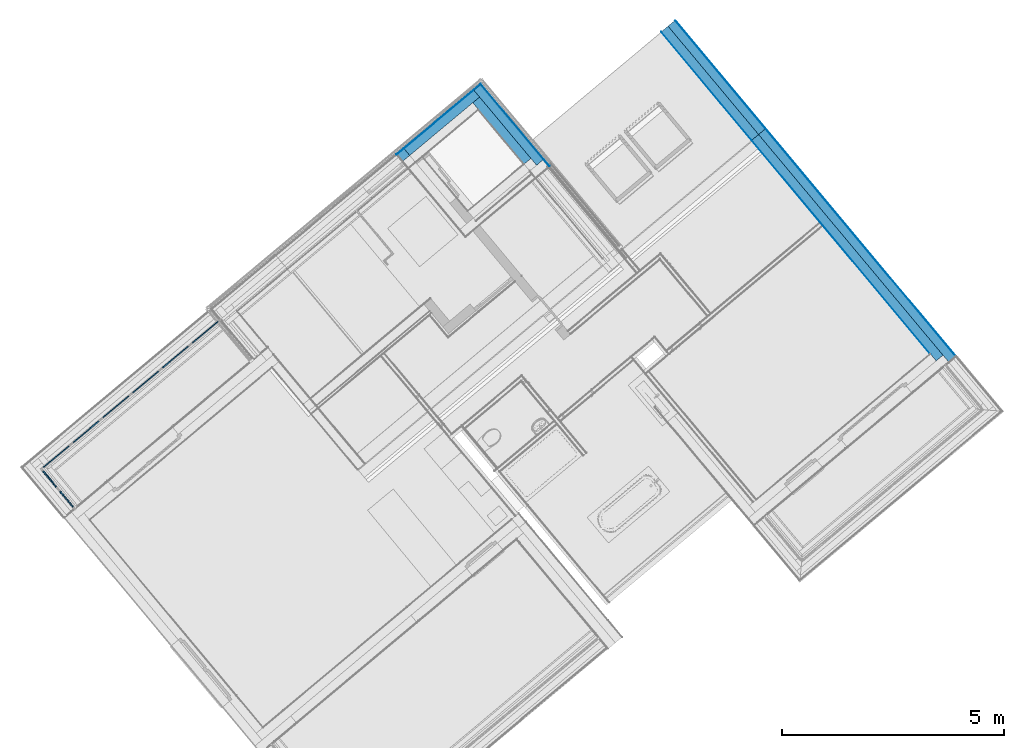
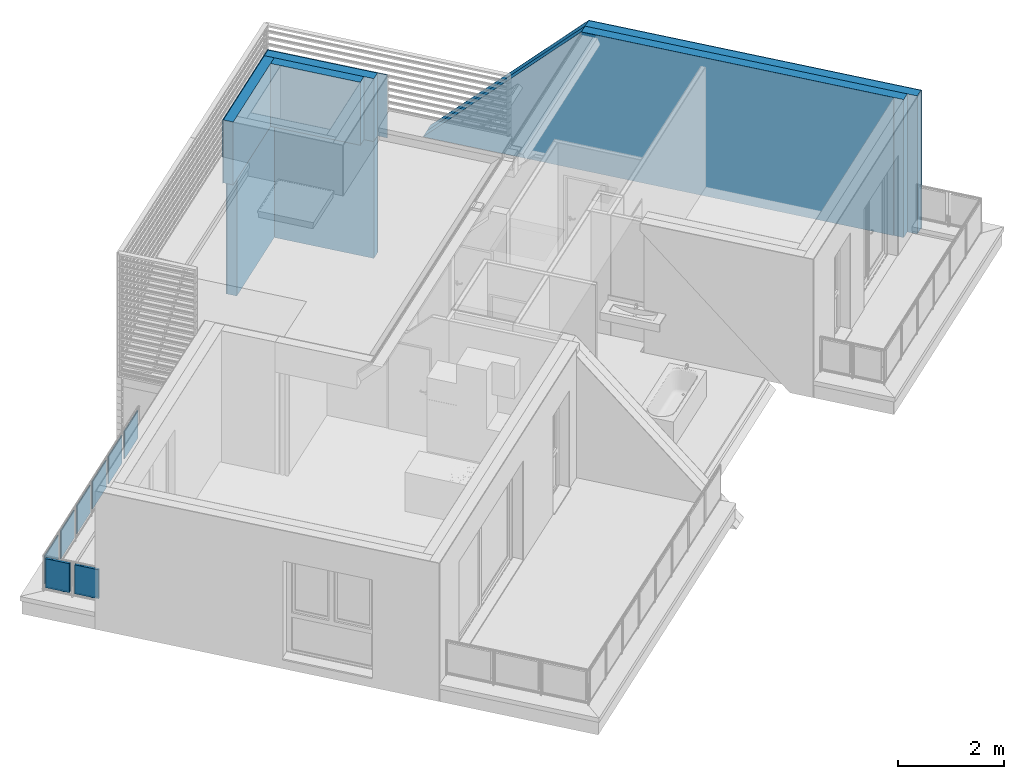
# One storey, part 39 of 50: 23 building element parts, 6 elements without a shape of their own.
"""IFC4 building model written with IfcOpenShell, lengths in metres."""

from ifc_helpers import new_model, entity, si_unit, converted_unit, derived_unit, direction, frame, origin_with_axes, place, context, subcontext, project, spatial, polygons, material, type_object, element, aggregate, save


model = new_model("IFC4")

# Units and contexts
model_context = context("Model", 3, precision=1e-05, world=origin_with_axes(), true_north=direction((0.0, 1.0)))
body_context = subcontext(model_context, "Body", "Model", "MODEL_VIEW")
ifc_project = project(units=[si_unit("LENGTHUNIT", "METRE"), si_unit("AREAUNIT", "SQUARE_METRE"), si_unit("VOLUMEUNIT", "CUBIC_METRE"), converted_unit("PLANEANGLEUNIT", "DEGREE", entity("IfcPlaneAngleMeasure", 0.0174532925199), si_unit("PLANEANGLEUNIT", "RADIAN"), dimensions=[0, 0, 0, 0, 0, 0, 0]), converted_unit("TIMEUNIT", "Year", entity("IfcTimeMeasure", 31556926.0), si_unit("TIMEUNIT", "SECOND"), dimensions=[0, 0, 1, 0, 0, 0, 0]), si_unit("MASSUNIT", "GRAM", prefix="KILO"), si_unit("THERMODYNAMICTEMPERATUREUNIT", "DEGREE_CELSIUS"), si_unit("LUMINOUSINTENSITYUNIT", "LUMEN"), si_unit("ENERGYUNIT", "JOULE", prefix="MEGA"), derived_unit("THERMALCONDUCTANCEUNIT", [(si_unit("POWERUNIT", "WATT"), 1), (si_unit("LENGTHUNIT", "METRE"), -1), (si_unit("THERMODYNAMICTEMPERATUREUNIT", "KELVIN"), -1)]), derived_unit("SPECIFICHEATCAPACITYUNIT", [(si_unit("ENERGYUNIT", "JOULE"), 1), (si_unit("MASSUNIT", "GRAM", prefix="KILO"), -1), (si_unit("THERMODYNAMICTEMPERATUREUNIT", "KELVIN"), -1)]), derived_unit("MASSDENSITYUNIT", [(si_unit("MASSUNIT", "GRAM", prefix="KILO"), 1), (si_unit("VOLUMEUNIT", "CUBIC_METRE"), -1)])], contexts=[model_context])

# Site, building, storey
site_placement = place(None, frame((-0.00153261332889, -0.00661245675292, 0.0), z_axis=(0.0, 0.0, 1.0), x_axis=(1.0, 0.0, 0.0)))
site = spatial("IfcSite", under=ifc_project, at=site_placement, Name="Gelände", CompositionType="ELEMENT")
building_placement = place(site_placement, origin_with_axes())
building = spatial("IfcBuilding", under=site, at=building_placement, Name="Gebäude", CompositionType="ELEMENT")
storey_placement = place(building_placement, frame((0.0, 0.0, 8.66), z_axis=(0.0, 0.0, 1.0), x_axis=(1.0, 0.0, 0.0)))
storey = spatial("IfcBuildingStorey", under=building, at=storey_placement, Name="DG2", CompositionType="ELEMENT", Elevation=8.66)

# Wall, building element parts
wall_type = type_object("IfcWallType", Name="AW EG 420", PredefinedType="NOTDEFINED")
wall_1_placement = place(storey_placement, frame((6.03523969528, 29.0898827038, 0.0), z_axis=(0.0, 0.0, 1.0), x_axis=(0.641209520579, -0.767365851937, 0.0)))
wall_1 = element("IfcWall", 1, at=wall_1_placement, inside=storey, type_object=wall_type, Name="Wand-002", PredefinedType="NOTDEFINED")
ifc_material_1 = material(Name="Zementputz")
building_element_part_1_placement = place(wall_1_placement, origin_with_axes())
building_element_part_1 = element("IfcBuildingElementPart", 2, at=building_element_part_1_placement, material=ifc_material_1, Name="Zementputz", PredefinedType="NOTDEFINED", context=body_context, shape_type="Tessellation", body=[
    polygons([(7.7306872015e-09, 0.0, 5.8130140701e-09), (3.18000000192, 0.0, 3.18), (9.87091338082, 0.0, 3.18), (9.87091338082, 0.0, 0.0), (3.18000000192, -0.015, 3.18), (7.63572316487e-09, -0.015, 5.71815306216e-09), (9.87092314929, -0.015, 3.18), (9.87092314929, -0.015, 0.0)], [[[1, 2, 3, 4]], [[5, 2, 1, 6]], [[2, 5, 7, 3]], [[8, 4, 3, 7]], [[6, 1, 4, 8]], [[5, 6, 8, 7]]], closed=True),
])
ifc_material_2 = material(Name="EPS 1")
building_element_part_2_placement = place(wall_1_placement, origin_with_axes())
building_element_part_2 = element("IfcBuildingElementPart", 3, at=building_element_part_2_placement, material=ifc_material_2, Name="EPS 1", PredefinedType="NOTDEFINED", context=body_context, shape_type="Tessellation", body=[
    polygons([(7.63572316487e-09, -0.015, 5.71815306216e-09), (3.18000000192, -0.015, 3.18), (9.85592314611, -0.015, 3.18), (9.85592314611, -0.015, 0.0), (3.18000000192, -0.215, 3.18), (6.36953245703e-09, -0.215, 4.45335146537e-09), (9.85605339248, -0.215, 3.18), (9.85605339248, -0.215, 0.0)], [[[1, 2, 3, 4]], [[5, 2, 1, 6]], [[2, 5, 7, 3]], [[8, 4, 3, 7]], [[6, 1, 4, 8]], [[5, 6, 8, 7]]], closed=True),
])
ifc_material_3 = material(Name="Stahlbeton Wand")
building_element_part_3_placement = place(wall_1_placement, origin_with_axes())
building_element_part_3 = element("IfcBuildingElementPart", 4, at=building_element_part_3_placement, material=ifc_material_3, Name="Stahlbeton Wand", PredefinedType="NOTDEFINED", context=body_context, shape_type="Tessellation", body=[
    polygons([(6.36953245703e-09, -0.215, 4.45334791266e-09), (3.18000000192, -0.215, 3.18), (9.65605335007, -0.215, 3.18), (9.65605335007, -0.215, 0.0), (3.18000000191, -0.415, 3.18), (5.10334174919e-09, -0.415, 3.18854631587e-09), (9.65618359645, -0.415, 3.18), (9.65618359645, -0.415, 0.0)], [[[1, 2, 3, 4]], [[5, 2, 1, 6]], [[2, 5, 7, 3]], [[8, 4, 3, 7]], [[6, 1, 4, 8]], [[5, 6, 8, 7]]], closed=True),
])
building_element_part_4_placement = place(wall_1_placement, origin_with_axes())
building_element_part_4 = element("IfcBuildingElementPart", 5, at=building_element_part_4_placement, material=ifc_material_1, Name="Zementputz", PredefinedType="NOTDEFINED", context=body_context, shape_type="Tessellation", body=[
    polygons([(5.10334174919e-09, -0.415, 3.18854631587e-09), (3.18000000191, -0.415, 3.18), (9.45618355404, -0.415, 3.18), (9.45618355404, -0.415, 0.0), (3.18000000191, -0.42, 3.18), (5.07168707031e-09, -0.42, 3.15692716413e-09), (9.4561868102, -0.42, 3.18), (9.4561868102, -0.42, 0.0)], [[[1, 2, 3, 4]], [[5, 2, 1, 6]], [[2, 5, 7, 3]], [[8, 4, 3, 7]], [[6, 1, 4, 8]], [[5, 6, 8, 7]]], closed=True),
])
aggregate(wall_1, [building_element_part_1, building_element_part_2, building_element_part_3, building_element_part_4])

wall_2_placement = place(storey_placement, frame((-0.0828746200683, 26.2046404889, 0.0), z_axis=(0.0, 0.0, 1.0), x_axis=(0.767365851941, 0.641209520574, 0.0)))
wall_2 = element("IfcWall", 6, at=wall_2_placement, inside=storey, type_object=wall_type, Name="Wand-002", PredefinedType="NOTDEFINED")
building_element_part_5_placement = place(wall_2_placement, origin_with_axes())
building_element_part_5 = element("IfcBuildingElementPart", 7, at=building_element_part_5_placement, material=ifc_material_1, Name="Zementputz", PredefinedType="NOTDEFINED", context=body_context, shape_type="Tessellation", body=[
    polygons([(2.24974241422, 0.0, 2.69), (0.0, 0.0, 2.69), (0.0, -0.015, 2.69), (2.24974241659, -0.015, 2.69), (2.24974241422, 0.0, 0.0), (0.0, 0.0, 0.0), (0.0, -0.015, 0.0), (2.24974241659, -0.015, 0.0)], [[[1, 2, 3, 4]], [[5, 6, 2, 1]], [[3, 2, 6, 7]], [[4, 3, 7, 8]], [[4, 8, 5, 1]], [[8, 7, 6, 5]]], closed=True),
])
building_element_part_6_placement = place(wall_2_placement, origin_with_axes())
building_element_part_6 = element("IfcBuildingElementPart", 8, at=building_element_part_6_placement, material=ifc_material_2, Name="EPS 1", PredefinedType="NOTDEFINED", context=body_context, shape_type="Tessellation", body=[
    polygons([(2.04974241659, -0.015, 2.69), (0.0, -0.015, 2.69), (0.0, -0.215, 2.69), (2.04974244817, -0.215, 2.69), (2.04974241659, -0.015, 0.0), (0.0, -0.015, 0.0), (0.0, -0.215, 0.0), (2.04974244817, -0.215, 0.0)], [[[1, 2, 3, 4]], [[5, 6, 2, 1]], [[3, 2, 6, 7]], [[4, 3, 7, 8]], [[4, 8, 5, 1]], [[8, 7, 6, 5]]], closed=True),
])
aggregate(wall_2, [building_element_part_5, building_element_part_6])

wall_3_placement = place(storey_placement, frame((1.60265649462, 27.072256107, 2.69), z_axis=(0.0, 0.0, 1.0), x_axis=(-0.767365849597, -0.641209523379, 0.0)))
wall_3 = element("IfcWall", 9, at=wall_3_placement, inside=storey, type_object=wall_type, Name="Wand-002", PredefinedType="NOTDEFINED")
building_element_part_7_placement = place(wall_3_placement, origin_with_axes())
building_element_part_7 = element("IfcBuildingElementPart", 10, at=building_element_part_7_placement, material=ifc_material_2, Name="EPS 1", PredefinedType="NOTDEFINED", context=body_context, shape_type="Tessellation", body=[
    polygons([(2.04954404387, -0.4, 0.0), (-0.200000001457, -0.4, 0.0), (-0.200000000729, -0.2, 0.0), (2.04955660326, -0.2, 0.0), (2.04954404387, -0.4, 1.45), (-0.200000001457, -0.4, 1.45), (-0.200000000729, -0.2, 1.45), (2.04955660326, -0.2, 1.45)], [[[1, 2, 3, 4]], [[5, 6, 2, 1]], [[3, 2, 6, 7]], [[4, 3, 7, 8]], [[4, 8, 5, 1]], [[8, 7, 6, 5]]], closed=True),
])
building_element_part_8_placement = place(wall_3_placement, origin_with_axes())
building_element_part_8 = element("IfcBuildingElementPart", 11, at=building_element_part_8_placement, material=ifc_material_1, Name="Zementputz", PredefinedType="NOTDEFINED", context=body_context, shape_type="Tessellation", body=[
    polygons([(2.06454310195, -0.415, 0.0), (-0.400000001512, -0.415, 0.0), (-0.400000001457, -0.4, 0.0), (2.0645440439, -0.4, 0.0), (2.06454310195, -0.415, 1.45), (-0.400000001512, -0.415, 1.45), (-0.400000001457, -0.4, 1.45), (2.0645440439, -0.4, 1.45)], [[[1, 2, 3, 4]], [[5, 6, 2, 1]], [[3, 2, 6, 7]], [[4, 3, 7, 8]], [[4, 8, 5, 1]], [[8, 7, 6, 5]]], closed=True),
])
aggregate(wall_3, [building_element_part_7, building_element_part_8])

# Space
space_1_placement = place(storey_placement, frame((2.62853065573, 25.842931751, 0.00145373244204), z_axis=(0.0, 0.0, 1.0), x_axis=(-0.641209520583, 0.767365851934, 0.0)))
space_1 = spatial("IfcSpace", under=storey, at=space_1_placement, CompositionType="ELEMENT", PredefinedType="NOTDEFINED")

# Wall, building element parts
wall_4_placement = place(space_1_placement, frame((2.01614181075, -0.416033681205, -0.00145373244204), z_axis=(0.0, 0.0, 1.0), x_axis=(-1.0, -1.57918665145e-07, 0.0)))
wall_4 = element("IfcWall", 12, at=wall_4_placement, inside=space_1, type_object=wall_type, Name="Wand-002", PredefinedType="NOTDEFINED")
building_element_part_9_placement = place(wall_4_placement, origin_with_axes())
building_element_part_9 = element("IfcBuildingElementPart", 13, at=building_element_part_9_placement, material=ifc_material_1, Name="Zementputz", PredefinedType="NOTDEFINED", context=body_context, shape_type="Tessellation", body=[
    polygons([(2.21626913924, -0.0150000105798, 2.69), (2.21627240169, 3.87430532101e-09, 2.69), (0.0, 1.67265312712e-10, 2.69), (-2.36895658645e-09, -0.0150000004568, 2.69), (2.21626913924, -0.0150000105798, 0.0), (2.21627240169, 3.87430532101e-09, 0.0), (0.0, 1.67265312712e-10, 0.0), (-2.36895658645e-09, -0.0150000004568, 0.0)], [[[1, 2, 3, 4]], [[2, 1, 5, 6]], [[2, 6, 7, 3]], [[3, 7, 8, 4]], [[5, 1, 4, 8]], [[6, 5, 8, 7]]], closed=True),
])
building_element_part_10_placement = place(wall_4_placement, origin_with_axes())
building_element_part_10 = element("IfcBuildingElementPart", 14, at=building_element_part_10_placement, material=ifc_material_2, Name="EPS 1", PredefinedType="NOTDEFINED", context=body_context, shape_type="Tessellation", body=[
    polygons([(0.014999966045, -0.215000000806, 2.69), (2.2162256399, -0.215000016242, 2.69), (2.21626913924, -0.0150000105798, 2.69), (0.014999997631, -0.0150000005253, 2.69), (0.014999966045, -0.215000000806, 0.0), (2.2162256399, -0.215000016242, 0.0), (2.21626913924, -0.0150000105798, 0.0), (0.014999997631, -0.0150000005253, 0.0)], [[[1, 2, 3, 4]], [[5, 6, 2, 1]], [[6, 7, 3, 2]], [[4, 3, 7, 8]], [[1, 4, 8, 5]], [[8, 7, 6, 5]]], closed=True),
])
aggregate(wall_4, [building_element_part_9, building_element_part_10])

wall_5_placement = place(space_1_placement, frame((2.60766213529e-05, -0.00103368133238, 2.68854626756), z_axis=(0.0, 0.0, 1.0), x_axis=(1.0, 0.0, 0.0)))
wall_5 = element("IfcWall", 15, at=wall_5_placement, inside=space_1, type_object=wall_type, Name="Wand-002", PredefinedType="NOTDEFINED")
building_element_part_11_placement = place(wall_5_placement, origin_with_axes())
building_element_part_11 = element("IfcBuildingElementPart", 16, at=building_element_part_11_placement, material=ifc_material_3, Name="Stahlbeton Wand", PredefinedType="NOTDEFINED", context=body_context, shape_type="Tessellation", body=[
    polygons([(1.80111573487, -0.2, 0.0), (3.51204465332e-06, -0.2, 0.0), (0.0, 0.0, 0.0), (1.80111573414, 0.0, 0.0), (1.80111573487, -0.2, 1.45), (3.51204465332e-06, -0.2, 1.45), (0.0, 0.0, 1.45), (1.80111573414, 0.0, 1.45)], [[[1, 2, 3, 4]], [[5, 6, 2, 1]], [[3, 2, 6, 7]], [[4, 3, 7, 8]], [[4, 8, 5, 1]], [[8, 7, 6, 5]]], closed=True),
])
building_element_part_12_placement = place(wall_5_placement, origin_with_axes())
building_element_part_12 = element("IfcBuildingElementPart", 17, at=building_element_part_12_placement, material=ifc_material_2, Name="EPS 1", PredefinedType="NOTDEFINED", context=body_context, shape_type="Tessellation", body=[
    polygons([(2.0011157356, -0.4, 0.0), (-0.199992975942, -0.4, 0.0), (-0.199996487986, -0.2, 0.0), (2.00111573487, -0.2, 0.0), (2.0011157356, -0.4, 1.45), (-0.199992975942, -0.4, 1.45), (-0.199996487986, -0.2, 1.45), (2.00111573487, -0.2, 1.45)], [[[1, 2, 3, 4]], [[5, 6, 2, 1]], [[3, 2, 6, 7]], [[4, 3, 7, 8]], [[4, 8, 5, 1]], [[8, 7, 6, 5]]], closed=True),
])
building_element_part_13_placement = place(wall_5_placement, origin_with_axes())
building_element_part_13 = element("IfcBuildingElementPart", 18, at=building_element_part_13_placement, material=ifc_material_1, Name="Zementputz", PredefinedType="NOTDEFINED", context=body_context, shape_type="Tessellation", body=[
    polygons([(2.01611573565, -0.415, 0.0), (-0.399992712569, -0.415, 0.0), (-0.399992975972, -0.4, 0.0), (2.0161157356, -0.4, 0.0), (2.01611573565, -0.415, 1.45), (-0.399992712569, -0.415, 1.45), (-0.399992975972, -0.4, 1.45), (2.0161157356, -0.4, 1.45)], [[[1, 2, 3, 4]], [[5, 6, 2, 1]], [[3, 2, 6, 7]], [[4, 3, 7, 8]], [[4, 8, 5, 1]], [[8, 7, 6, 5]]], closed=True),
])
aggregate(wall_5, [building_element_part_11, building_element_part_12, building_element_part_13])

# Space
space_2_placement = place(storey_placement, frame((-4.06558748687, 22.1637970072, 0.22), z_axis=(0.0, 0.0, 1.0), x_axis=(-0.767365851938, -0.641209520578, 0.0)))
space_2 = spatial("IfcSpace", under=storey, at=space_2_placement, CompositionType="ELEMENT", PredefinedType="NOTDEFINED")

# Railing, building element parts
railing_type = type_object("IfcRailingType", Name="Geländerart", PredefinedType="NOTDEFINED")
railing_placement = place(space_2_placement, frame((5.14520574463, 0.942485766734, 0.16), z_axis=(0.0, 0.0, 1.0), x_axis=(-0.767365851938, 0.641209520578, 0.0)))
railing = element("IfcRailing", 19, at=railing_placement, inside=space_2, type_object=railing_type, Name="Geländer - 001", PredefinedType="NOTDEFINED")
ifc_material_4 = material(Name="Profilit")
building_element_part_14_placement = place(railing_placement, origin_with_axes())
building_element_part_14 = element("IfcBuildingElementPart", 20, at=building_element_part_14_placement, material=ifc_material_4, Name="Profilit", PredefinedType="NOTDEFINED", context=body_context, shape_type="Tessellation", body=[
    polygons([(-0.41929399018, 0.33023821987, 0.135), (-0.126088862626, -0.0206542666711, 0.135), (-0.126088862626, -0.0206542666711, 0.775), (-0.41929399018, 0.33023821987, 0.775), (-0.110741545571, -0.00783007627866, 0.135), (-0.403946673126, 0.343062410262, 0.135), (-0.110741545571, -0.00783007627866, 0.775), (-0.403946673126, 0.343062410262, 0.775)], [[[1, 2, 3, 4]], [[5, 2, 1, 6]], [[7, 3, 2, 5]], [[4, 3, 7, 8]], [[1, 4, 8, 6]], [[7, 5, 6, 8]]], closed=True),
])
ifc_material_5 = material(Name="Aluminium")
building_element_part_15_placement = place(railing_placement, origin_with_axes())
building_element_part_15 = element("IfcBuildingElementPart", 21, at=building_element_part_15_placement, material=ifc_material_5, Name="Aluminium", PredefinedType="NOTDEFINED", context=body_context, shape_type="Tessellation", body=[
    polygons([(-0.174836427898, 0.0493809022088, 0.12), (-0.219721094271, 0.103096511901, 0.12), (-0.219721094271, 0.103096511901, 0.095), (-0.174836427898, 0.0493809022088, 0.095), (-0.170999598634, 0.0525869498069, 0.12), (-0.215884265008, 0.106302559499, 0.12), (-0.215884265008, 0.106302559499, 0.095), (-0.170999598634, 0.0525869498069, 0.095)], [[[1, 2, 3, 4]], [[5, 6, 2, 1]], [[2, 6, 7, 3]], [[4, 3, 7, 8]], [[1, 4, 8, 5]], [[8, 7, 6, 5]]], closed=True),
    polygons([(-0.359035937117, 0.269821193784, 0.79), (-0.314151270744, 0.216105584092, 0.79), (-0.314151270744, 0.216105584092, 0.795), (-0.359035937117, 0.269821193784, 0.795), (-0.355199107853, 0.273027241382, 0.79), (-0.31031444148, 0.219311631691, 0.79), (-0.31031444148, 0.219311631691, 0.795), (-0.355199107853, 0.273027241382, 0.795)], [[[1, 2, 3, 4]], [[5, 6, 2, 1]], [[2, 6, 7, 3]], [[4, 3, 7, 8]], [[1, 4, 8, 5]], [[8, 7, 6, 5]]], closed=True),
    polygons([(-0.0896129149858, -0.00972242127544, 0.12), (-0.127981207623, -0.0417828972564, 0.12), (-0.440422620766, 0.332130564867, 0.12), (-0.402054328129, 0.364191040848, 0.12), (-0.102437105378, 0.00562489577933, 0.14), (-0.113947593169, -0.00399324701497, 0.14), (-0.110741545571, -0.00783007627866, 0.135), (-0.126088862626, -0.0206542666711, 0.135), (-0.129294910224, -0.0168174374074, 0.14), (-0.140805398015, -0.0264355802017, 0.14), (-0.427598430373, 0.316783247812, 0.14), (-0.427598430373, 0.316783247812, 0.77), (-0.140805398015, -0.0264355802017, 0.77), (-0.140805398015, -0.0264355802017, 0.14), (-0.127981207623, -0.0417828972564, 0.12), (-0.127981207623, -0.0417828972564, 0.79), (-0.440422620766, 0.332130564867, 0.79), (-0.402054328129, 0.364191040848, 0.79), (-0.0896129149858, -0.00972242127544, 0.79), (-0.0896129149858, -0.00972242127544, 0.12), (-0.102437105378, 0.00562489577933, 0.14), (-0.102437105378, 0.00562489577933, 0.77), (-0.389230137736, 0.348843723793, 0.77), (-0.389230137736, 0.348843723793, 0.14), (-0.400740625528, 0.339225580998, 0.14), (-0.400740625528, 0.339225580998, 0.77), (-0.113947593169, -0.00399324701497, 0.77), (-0.113947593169, -0.00399324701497, 0.14), (-0.110741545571, -0.00783007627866, 0.135), (-0.110741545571, -0.00783007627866, 0.775), (-0.403946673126, 0.343062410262, 0.775), (-0.403946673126, 0.343062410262, 0.135), (-0.41929399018, 0.33023821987, 0.135), (-0.41929399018, 0.33023821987, 0.775), (-0.126088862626, -0.0206542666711, 0.775), (-0.126088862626, -0.0206542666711, 0.135), (-0.129294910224, -0.0168174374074, 0.14), (-0.129294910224, -0.0168174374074, 0.77), (-0.416087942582, 0.326401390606, 0.77), (-0.416087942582, 0.326401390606, 0.14)], [[[1, 2, 3, 4]], [[1, 5, 6, 7, 8, 9, 10, 2]], [[2, 10, 11, 12, 13, 14, 15, 16, 17, 3]], [[4, 3, 17, 18]], [[5, 1, 4, 18, 19, 20, 21, 22, 23, 24]], [[6, 5, 24, 25]], [[7, 6, 25, 26, 27, 28, 29, 30, 31, 32]], [[8, 7, 32, 33]], [[9, 8, 33, 34, 35, 36, 37, 38, 39, 40]], [[10, 9, 40, 11]], [[11, 40, 39, 12]], [[12, 39, 38, 13]], [[13, 38, 37, 14]], [[20, 15, 14, 37, 36, 29, 28, 21]], [[19, 16, 15, 20]], [[18, 17, 16, 19]], [[27, 22, 21, 28]], [[26, 23, 22, 27]], [[25, 24, 23, 26]], [[35, 30, 29, 36]], [[34, 31, 30, 35]], [[33, 32, 31, 34]]], closed=True),
])
building_element_part_16_placement = place(railing_placement, origin_with_axes())
building_element_part_16 = element("IfcBuildingElementPart", 22, at=building_element_part_16_placement, material=ifc_material_4, Name="Profilit", PredefinedType="NOTDEFINED", context=body_context, shape_type="Tessellation", body=[
    polygons([(-0.795856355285, 0.780888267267, 0.135), (-0.502651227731, 0.429995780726, 0.135), (-0.502651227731, 0.429995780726, 0.775), (-0.795856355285, 0.780888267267, 0.775), (-0.487303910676, 0.442819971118, 0.135), (-0.780509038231, 0.793712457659, 0.135), (-0.487303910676, 0.442819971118, 0.775), (-0.780509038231, 0.793712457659, 0.775)], [[[1, 2, 3, 4]], [[5, 2, 1, 6]], [[7, 3, 2, 5]], [[4, 3, 7, 8]], [[1, 4, 8, 6]], [[7, 5, 6, 8]]], closed=True),
])
building_element_part_17_placement = place(railing_placement, origin_with_axes())
building_element_part_17 = element("IfcBuildingElementPart", 23, at=building_element_part_17_placement, material=ifc_material_5, Name="Aluminium", PredefinedType="NOTDEFINED", context=body_context, shape_type="Tessellation", body=[
    polygons([(-0.551398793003, 0.500030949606, 0.12), (-0.596283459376, 0.553746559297, 0.12), (-0.596283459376, 0.553746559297, 0.095), (-0.551398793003, 0.500030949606, 0.095), (-0.547561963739, 0.503236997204, 0.12), (-0.592446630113, 0.556952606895, 0.12), (-0.592446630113, 0.556952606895, 0.095), (-0.547561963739, 0.503236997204, 0.095)], [[[1, 2, 3, 4]], [[5, 6, 2, 1]], [[2, 6, 7, 3]], [[4, 3, 7, 8]], [[1, 4, 8, 5]], [[8, 7, 6, 5]]], closed=True),
    polygons([(-0.735598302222, 0.720471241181, 0.79), (-0.690713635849, 0.666755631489, 0.79), (-0.690713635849, 0.666755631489, 0.795), (-0.735598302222, 0.720471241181, 0.795), (-0.731761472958, 0.723677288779, 0.79), (-0.686876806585, 0.669961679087, 0.79), (-0.686876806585, 0.669961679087, 0.795), (-0.731761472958, 0.723677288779, 0.795)], [[[1, 2, 3, 4]], [[5, 6, 2, 1]], [[2, 6, 7, 3]], [[4, 3, 7, 8]], [[1, 4, 8, 5]], [[8, 7, 6, 5]]], closed=True),
    polygons([(-0.466175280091, 0.440927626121, 0.12), (-0.504543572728, 0.40886715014, 0.12), (-0.816984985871, 0.782780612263, 0.12), (-0.778616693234, 0.814841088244, 0.12), (-0.478999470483, 0.456274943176, 0.14), (-0.490509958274, 0.446656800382, 0.14), (-0.487303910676, 0.442819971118, 0.135), (-0.502651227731, 0.429995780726, 0.135), (-0.505857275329, 0.433832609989, 0.14), (-0.51736776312, 0.424214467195, 0.14), (-0.804160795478, 0.767433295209, 0.14), (-0.804160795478, 0.767433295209, 0.77), (-0.51736776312, 0.424214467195, 0.77), (-0.51736776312, 0.424214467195, 0.14), (-0.504543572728, 0.40886715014, 0.12), (-0.504543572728, 0.40886715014, 0.79), (-0.816984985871, 0.782780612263, 0.79), (-0.778616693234, 0.814841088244, 0.79), (-0.466175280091, 0.440927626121, 0.79), (-0.466175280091, 0.440927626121, 0.12), (-0.478999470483, 0.456274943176, 0.14), (-0.478999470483, 0.456274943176, 0.77), (-0.765792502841, 0.79949377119, 0.77), (-0.765792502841, 0.79949377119, 0.14), (-0.777302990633, 0.789875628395, 0.14), (-0.777302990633, 0.789875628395, 0.77), (-0.490509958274, 0.446656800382, 0.77), (-0.490509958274, 0.446656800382, 0.14), (-0.487303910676, 0.442819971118, 0.135), (-0.487303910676, 0.442819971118, 0.775), (-0.780509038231, 0.793712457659, 0.775), (-0.780509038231, 0.793712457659, 0.135), (-0.795856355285, 0.780888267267, 0.135), (-0.795856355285, 0.780888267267, 0.775), (-0.502651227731, 0.429995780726, 0.775), (-0.502651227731, 0.429995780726, 0.135), (-0.505857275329, 0.433832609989, 0.14), (-0.505857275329, 0.433832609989, 0.77), (-0.792650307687, 0.777051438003, 0.77), (-0.792650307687, 0.777051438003, 0.14)], [[[1, 2, 3, 4]], [[1, 5, 6, 7, 8, 9, 10, 2]], [[2, 10, 11, 12, 13, 14, 15, 16, 17, 3]], [[4, 3, 17, 18]], [[5, 1, 4, 18, 19, 20, 21, 22, 23, 24]], [[6, 5, 24, 25]], [[7, 6, 25, 26, 27, 28, 29, 30, 31, 32]], [[8, 7, 32, 33]], [[9, 8, 33, 34, 35, 36, 37, 38, 39, 40]], [[10, 9, 40, 11]], [[11, 40, 39, 12]], [[12, 39, 38, 13]], [[13, 38, 37, 14]], [[20, 15, 14, 37, 36, 29, 28, 21]], [[19, 16, 15, 20]], [[18, 17, 16, 19]], [[27, 22, 21, 28]], [[26, 23, 22, 27]], [[25, 24, 23, 26]], [[35, 30, 29, 36]], [[34, 31, 30, 35]], [[33, 32, 31, 34]]], closed=True),
])
building_element_part_18_placement = place(railing_placement, origin_with_axes())
building_element_part_18 = element("IfcBuildingElementPart", 24, at=building_element_part_18_placement, material=ifc_material_4, Name="Profilit", PredefinedType="NOTDEFINED", context=body_context, shape_type="Tessellation", body=[
    polygons([(-0.215320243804, 1.36372017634, 0.135), (-0.786394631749, 0.886531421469, 0.135), (-0.786394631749, 0.886531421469, 0.775), (-0.215320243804, 1.36372017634, 0.775), (-0.773570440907, 0.87118410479, 0.135), (-0.202496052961, 1.34837285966, 0.135), (-0.773570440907, 0.87118410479, 0.775), (-0.202496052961, 1.34837285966, 0.775)], [[[1, 2, 3, 4]], [[5, 2, 1, 6]], [[7, 3, 2, 5]], [[4, 3, 7, 8]], [[1, 4, 8, 6]], [[7, 5, 6, 8]]], closed=True),
])
building_element_part_19_placement = place(railing_placement, origin_with_axes())
building_element_part_19 = element("IfcBuildingElementPart", 25, at=building_element_part_19_placement, material=ifc_material_4, Name="Profilit", PredefinedType="NOTDEFINED", context=body_context, shape_type="Tessellation", body=[
    polygons([(0.455511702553, 1.92426617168, 0.135), (-0.115562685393, 1.44707741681, 0.135), (-0.115562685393, 1.44707741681, 0.775), (0.455511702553, 1.92426617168, 0.775), (-0.10273849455, 1.43173010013, 0.135), (0.468335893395, 1.908918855, 0.135), (-0.10273849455, 1.43173010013, 0.775), (0.468335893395, 1.908918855, 0.775)], [[[1, 2, 3, 4]], [[5, 2, 1, 6]], [[7, 3, 2, 5]], [[4, 3, 7, 8]], [[1, 4, 8, 6]], [[7, 5, 6, 8]]], closed=True),
])
building_element_part_20_placement = place(railing_placement, origin_with_axes())
building_element_part_20 = element("IfcBuildingElementPart", 26, at=building_element_part_20_placement, material=ifc_material_4, Name="Profilit", PredefinedType="NOTDEFINED", context=body_context, shape_type="Tessellation", body=[
    polygons([(1.12634364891, 2.48481216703, 0.135), (0.555269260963, 2.00762341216, 0.135), (0.555269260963, 2.00762341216, 0.775), (1.12634364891, 2.48481216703, 0.775), (0.568093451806, 1.99227609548, 0.135), (1.13916783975, 2.46946485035, 0.135), (0.568093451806, 1.99227609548, 0.775), (1.13916783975, 2.46946485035, 0.775)], [[[1, 2, 3, 4]], [[5, 2, 1, 6]], [[7, 3, 2, 5]], [[4, 3, 7, 8]], [[1, 4, 8, 6]], [[7, 5, 6, 8]]], closed=True),
])
building_element_part_21_placement = place(railing_placement, origin_with_axes())
building_element_part_21 = element("IfcBuildingElementPart", 27, at=building_element_part_21_placement, material=ifc_material_4, Name="Profilit", PredefinedType="NOTDEFINED", context=body_context, shape_type="Tessellation", body=[
    polygons([(1.79717559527, 3.04535816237, 0.135), (1.22610120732, 2.5681694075, 0.135), (1.22610120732, 2.5681694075, 0.775), (1.79717559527, 3.04535816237, 0.775), (1.23892539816, 2.55282209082, 0.135), (1.80999978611, 3.03001084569, 0.135), (1.23892539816, 2.55282209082, 0.775), (1.80999978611, 3.03001084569, 0.775)], [[[1, 2, 3, 4]], [[5, 2, 1, 6]], [[7, 3, 2, 5]], [[4, 3, 7, 8]], [[1, 4, 8, 6]], [[7, 5, 6, 8]]], closed=True),
])
building_element_part_22_placement = place(railing_placement, origin_with_axes())
building_element_part_22 = element("IfcBuildingElementPart", 28, at=building_element_part_22_placement, material=ifc_material_4, Name="Profilit", PredefinedType="NOTDEFINED", context=body_context, shape_type="Tessellation", body=[
    polygons([(2.46800754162, 3.60590415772, 0.135), (1.89693315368, 3.12871540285, 0.135), (1.89693315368, 3.12871540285, 0.775), (2.46800754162, 3.60590415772, 0.775), (1.90975734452, 3.11336808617, 0.135), (2.48083173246, 3.59055684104, 0.135), (1.90975734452, 3.11336808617, 0.775), (2.48083173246, 3.59055684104, 0.775)], [[[1, 2, 3, 4]], [[5, 2, 1, 6]], [[7, 3, 2, 5]], [[4, 3, 7, 8]], [[1, 4, 8, 6]], [[7, 5, 6, 8]]], closed=True),
])
building_element_part_23_placement = place(railing_placement, origin_with_axes())
building_element_part_23 = element("IfcBuildingElementPart", 29, at=building_element_part_23_placement, material=ifc_material_4, Name="Profilit", PredefinedType="NOTDEFINED", context=body_context, shape_type="Tessellation", body=[
    polygons([(3.13883948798, 4.16645015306, 0.135), (2.56776510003, 3.68926139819, 0.135), (2.56776510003, 3.68926139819, 0.775), (3.13883948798, 4.16645015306, 0.775), (2.58058929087, 3.67391408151, 0.135), (3.15166367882, 4.15110283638, 0.135), (2.58058929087, 3.67391408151, 0.775), (3.15166367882, 4.15110283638, 0.775)], [[[1, 2, 3, 4]], [[5, 2, 1, 6]], [[7, 3, 2, 5]], [[4, 3, 7, 8]], [[1, 4, 8, 6]], [[7, 5, 6, 8]]], closed=True),
])
aggregate(railing, [building_element_part_14, building_element_part_15, building_element_part_16, building_element_part_17, building_element_part_18, building_element_part_19, building_element_part_20, building_element_part_21, building_element_part_22, building_element_part_23])

save(model, "model.ifc")
